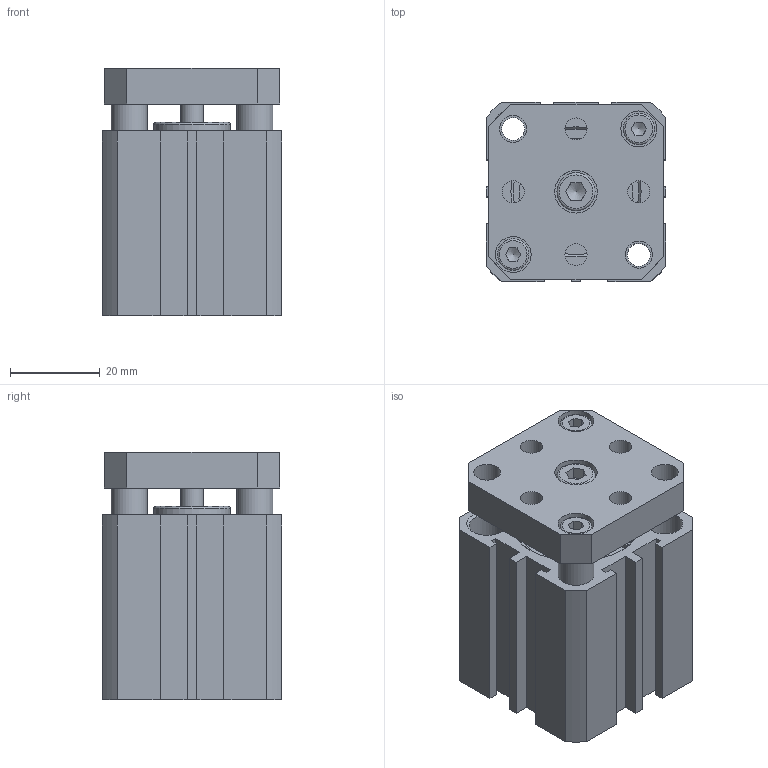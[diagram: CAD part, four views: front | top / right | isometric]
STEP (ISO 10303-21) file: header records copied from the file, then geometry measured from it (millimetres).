
FILE_DESCRIPTION((''),'2;1');
FILE_NAME('I:\3D電子目錄\氣缸\JTD\JTD\JTD25\JTD25x20.stp','2007-08-09T20:06:39',('Administrator'),(''),'Autodesk Inventor 11','Autodesk Inventor 11','');
FILE_SCHEMA(('AUTOMOTIVE_DESIGN { 1 0 10303 214 1 1 1 1 }'));
Length unit declared in the file: millimetre
Products named in the file (5): JTD25; R 形環 28; ISO 4762 M5 x 10; ISO 4762 M4 x 10
Assembly tree (6 placements, depth 2):
  JTD25
    JTD25
    R 形環 28  x2
    ISO 4762 M5 x 10
    ISO 4762 M4 x 10  x2
Bounding box: 40 x 40 x 55.2 mm (x, y, z)
Volume: 62242.3 mm3; surface area: 24290.9 mm2
Topology: 6 solids, 6 shells, 199 faces, 461 edges, 302 vertices
Faces by surface type: plane 111, cylinder 52, bspline 19, cone 12, torus 5
Full cylindrical faces by diameter (mm): 1.5 x2, 1.9 x4, 4 x2, 5 x1, 5.1 x2, 6 x2, 6.039 x2, 6.5 x2, 7 x2, 8 x6, 8.5 x1, 17 x2, 28 x4, 29.4 x2
Entity records: 5011 total; most frequent: CARTESIAN_POINT 1111, DIRECTION 778, ORIENTED_EDGE 676, EDGE_CURVE 338, AXIS2_PLACEMENT_3D 287, EDGE_LOOP 286, VERTEX_POINT 258, VECTOR 204
